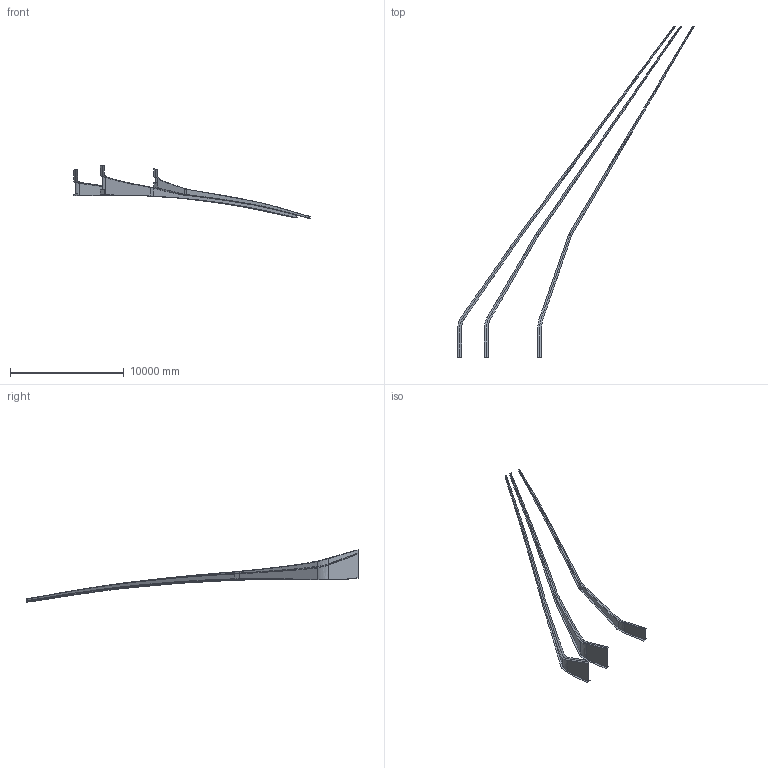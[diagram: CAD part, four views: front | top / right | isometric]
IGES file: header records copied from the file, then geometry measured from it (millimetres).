
Global section: file name: E:\temp\CRM_spars.igs; native system: NX V8.5; preprocessor: SIEMENS PLM Software NX 8.5; date: 20140115.094634; units: inch
Bounding box: 20837.22 x 29241.83 x 4628.06 mm (x, y, z)
Surface area: 112496910.5 mm2 (no closed solid volume)
Topology: 0 solids, 0 shells, 33 faces, 806 edges, 806 vertices
Faces by surface type: bspline 33
